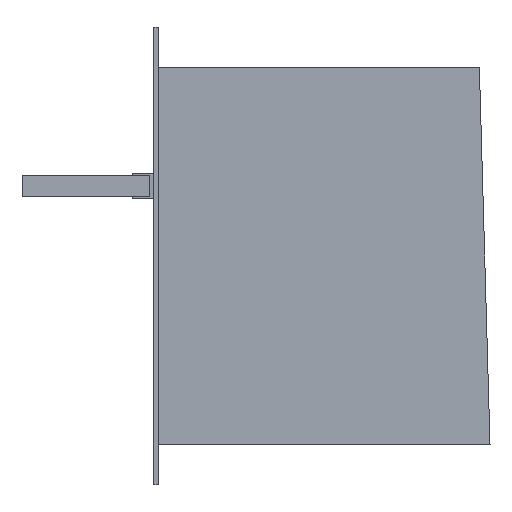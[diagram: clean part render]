
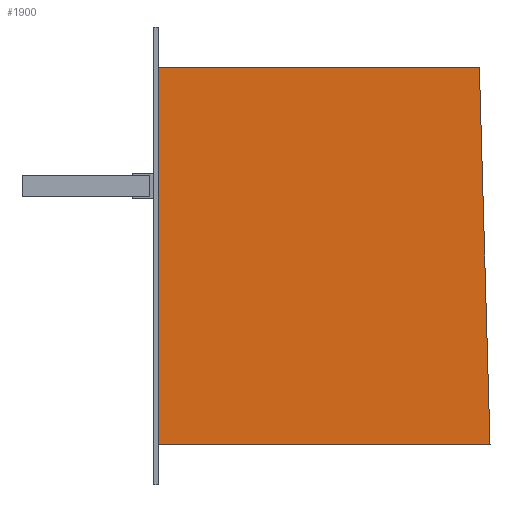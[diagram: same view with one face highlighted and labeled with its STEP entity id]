
A CAD part, left-side view. The second image highlights one B-rep face of the part: STEP entity #1900.
In plain terms, the highlighted planar face has unit normal (-1, 0, 0).
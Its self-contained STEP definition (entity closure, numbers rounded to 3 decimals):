
#17 = VECTOR ( 'NONE', #106, 1000. ) ;
#46 = DIRECTION ( 'NONE',  ( 0., 0., -1. ) ) ;
#76 = EDGE_CURVE ( 'NONE', #218, #1477, #1448, .T. ) ;
#106 = DIRECTION ( 'NONE',  ( 0., -1., 0. ) ) ;
#135 = EDGE_CURVE ( 'NONE', #554, #285, #1055, .T. ) ;
#218 = VERTEX_POINT ( 'NONE', #750 ) ;
#268 = VECTOR ( 'NONE', #1178, 1000. ) ;
#285 = VERTEX_POINT ( 'NONE', #1537 ) ;
#401 = CARTESIAN_POINT ( 'NONE',  ( -441., 0., -88.5 ) ) ;
#544 = EDGE_LOOP ( 'NONE', ( #1000, #1889, #1509, #718 ) ) ;
#554 = VERTEX_POINT ( 'NONE', #822 ) ;
#564 = CARTESIAN_POINT ( 'NONE',  ( -441., 0., -88.5 ) ) ;
#612 = EDGE_CURVE ( 'NONE', #285, #218, #1767, .T. ) ;
#639 = FACE_OUTER_BOUND ( 'NONE', #544, .T. ) ;
#718 = ORIENTED_EDGE ( 'NONE', *, *, #76, .T. ) ;
#750 = CARTESIAN_POINT ( 'NONE',  ( -441., 0., 88.5 ) ) ;
#822 = CARTESIAN_POINT ( 'NONE',  ( -441., -156., -88.5 ) ) ;
#847 = DIRECTION ( 'NONE',  ( 0., 0., -1. ) ) ;
#919 = VECTOR ( 'NONE', #847, 1000. ) ;
#1000 = ORIENTED_EDGE ( 'NONE', *, *, #1426, .T. ) ;
#1032 = CARTESIAN_POINT ( 'NONE',  ( -441., 0., 88.5 ) ) ;
#1046 = DIRECTION ( 'NONE',  ( 1., 0., 0. ) ) ;
#1047 = AXIS2_PLACEMENT_3D ( 'NONE', #1372, #1046, #46 ) ;
#1055 = LINE ( 'NONE', #1497, #1584 ) ;
#1164 = CARTESIAN_POINT ( 'NONE',  ( -441., 0., 88.5 ) ) ;
#1178 = DIRECTION ( 'NONE',  ( 0., 1., 0. ) ) ;
#1355 = DIRECTION ( 'NONE',  ( 0., 0.028, 1. ) ) ;
#1372 = CARTESIAN_POINT ( 'NONE',  ( -441., 2., 107.5 ) ) ;
#1426 = EDGE_CURVE ( 'NONE', #1477, #554, #1772, .T. ) ;
#1448 = LINE ( 'NONE', #1032, #919 ) ;
#1477 = VERTEX_POINT ( 'NONE', #401 ) ;
#1497 = CARTESIAN_POINT ( 'NONE',  ( -441., -151., 88.5 ) ) ;
#1509 = ORIENTED_EDGE ( 'NONE', *, *, #612, .T. ) ;
#1532 = PLANE ( 'NONE',  #1047 ) ;
#1537 = CARTESIAN_POINT ( 'NONE',  ( -441., -151., 88.5 ) ) ;
#1584 = VECTOR ( 'NONE', #1355, 1000. ) ;
#1767 = LINE ( 'NONE', #1164, #268 ) ;
#1772 = LINE ( 'NONE', #564, #17 ) ;
#1889 = ORIENTED_EDGE ( 'NONE', *, *, #135, .T. ) ;
#1900 = ADVANCED_FACE ( 'NONE', ( #639 ), #1532, .F. ) ;
